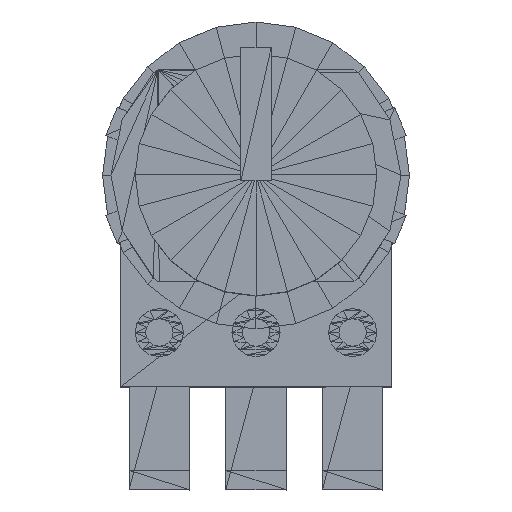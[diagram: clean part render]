
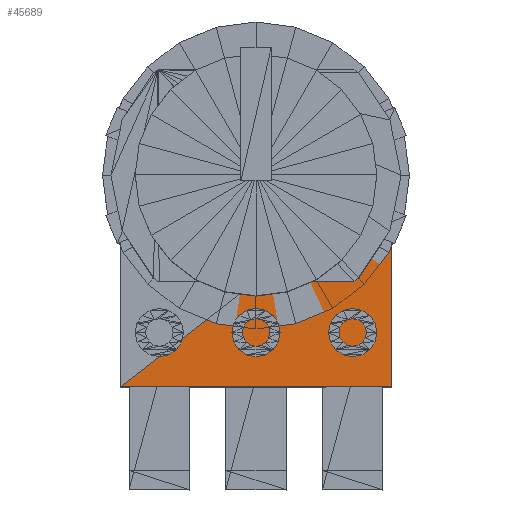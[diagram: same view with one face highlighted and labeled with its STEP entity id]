
A CAD part, top view. The second image highlights one B-rep face of the part: STEP entity #45689.
In plain terms, the highlighted planar face has unit normal (0, 0, -1).
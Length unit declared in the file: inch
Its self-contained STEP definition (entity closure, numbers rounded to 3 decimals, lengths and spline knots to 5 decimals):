
#45390=CARTESIAN_POINT('',(-0.28125,-0.43758,0.38616));
#45391=VERTEX_POINT('',#45390);
#45424=CARTESIAN_POINT('',(0.28125,-0.00008,0.38625));
#45425=VERTEX_POINT('',#45424);
#45492=CARTESIAN_POINT('',(0.28125,-0.43758,0.38616));
#45493=VERTEX_POINT('',#45492);
#45494=CARTESIAN_POINT('',(-0.28125,-0.43758,0.38616));
#45495=DIRECTION('',(1.,0.,-0.));
#45496=VECTOR('',#45495,0.5625);
#45497=LINE('',#45494,#45496);
#45498=EDGE_CURVE('',#45391,#45493,#45497,.T.);
#45567=CARTESIAN_POINT('',(0.28125,-0.43758,0.38616));
#45568=DIRECTION('',(0.,1.,0.));
#45569=VECTOR('',#45568,0.4375);
#45570=LINE('',#45567,#45569);
#45571=EDGE_CURVE('',#45493,#45425,#45570,.T.);
#45669=CARTESIAN_POINT('',(-0.28125,-0.43758,0.38616));
#45670=DIRECTION('',(0.789,0.614,0.));
#45671=VECTOR('',#45670,0.71261);
#45672=LINE('',#45669,#45671);
#45673=EDGE_CURVE('',#45391,#45425,#45672,.T.);
#45679=CARTESIAN_POINT('',(-0.28125,-0.43758,0.38616));
#45680=DIRECTION('',(0.,0.,1.));
#45681=DIRECTION('',(1.,-0.,0.));
#45682=AXIS2_PLACEMENT_3D('',#45679,#45680,#45681);
#45683=PLANE('',#45682);
#45684=ORIENTED_EDGE('',*,*,#45673,.T.);
#45685=ORIENTED_EDGE('',*,*,#45571,.F.);
#45686=ORIENTED_EDGE('',*,*,#45498,.F.);
#45687=EDGE_LOOP('',(#45684,#45685,#45686));
#45688=FACE_BOUND('',#45687,.T.);
#45689=ADVANCED_FACE('',(#45688),#45683,.F.);
